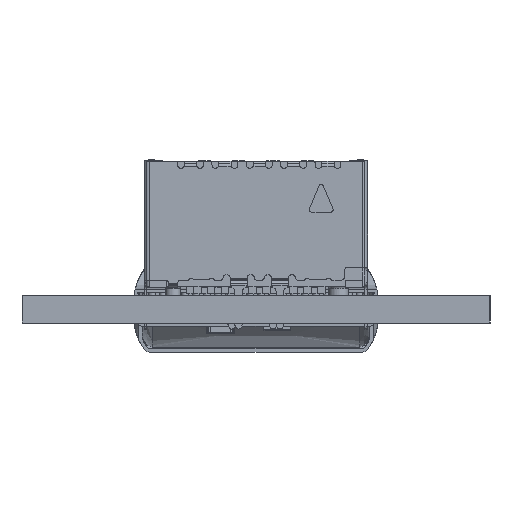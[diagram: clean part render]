
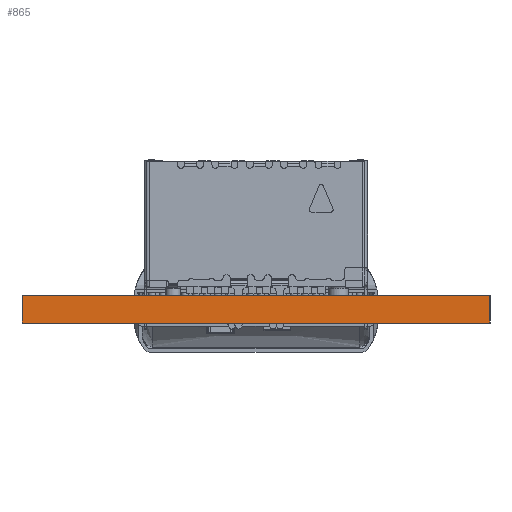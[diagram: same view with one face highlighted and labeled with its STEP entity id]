
A CAD part, front view. The second image highlights one B-rep face of the part: STEP entity #865.
In plain terms, the highlighted planar face has unit normal (-0.001, -1, 0).
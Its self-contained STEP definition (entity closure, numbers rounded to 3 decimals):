
#77 = EDGE_CURVE('',#78,#80,#82,.T.);
#78 = VERTEX_POINT('',#79);
#79 = CARTESIAN_POINT('',(9.456,9.848,0.));
#80 = VERTEX_POINT('',#81);
#81 = CARTESIAN_POINT('',(9.456,9.848,1.6));
#82 = LINE('',#83,#84);
#83 = CARTESIAN_POINT('',(9.456,9.848,0.));
#84 = VECTOR('',#85,1.);
#85 = DIRECTION('',(0.,0.,1.));
#840 = VERTEX_POINT('',#841);
#841 = CARTESIAN_POINT('',(36.67,9.835,1.6));
#847 = EDGE_CURVE('',#848,#840,#850,.T.);
#848 = VERTEX_POINT('',#849);
#849 = CARTESIAN_POINT('',(36.67,9.835,0.));
#850 = LINE('',#851,#852);
#851 = CARTESIAN_POINT('',(36.67,9.835,0.));
#852 = VECTOR('',#853,1.);
#853 = DIRECTION('',(0.,0.,1.));
#865 = ADVANCED_FACE('',(#866),#882,.T.);
#866 = FACE_BOUND('',#867,.T.);
#867 = EDGE_LOOP('',(#868,#869,#875,#876));
#868 = ORIENTED_EDGE('',*,*,#847,.T.);
#869 = ORIENTED_EDGE('',*,*,#870,.T.);
#870 = EDGE_CURVE('',#840,#80,#871,.T.);
#871 = LINE('',#872,#873);
#872 = CARTESIAN_POINT('',(36.67,9.835,1.6));
#873 = VECTOR('',#874,1.);
#874 = DIRECTION('',(-1.,0.,0.));
#875 = ORIENTED_EDGE('',*,*,#77,.F.);
#876 = ORIENTED_EDGE('',*,*,#877,.F.);
#877 = EDGE_CURVE('',#848,#78,#878,.T.);
#878 = LINE('',#879,#880);
#879 = CARTESIAN_POINT('',(36.67,9.835,0.));
#880 = VECTOR('',#881,1.);
#881 = DIRECTION('',(-1.,0.,0.));
#882 = PLANE('',#883);
#883 = AXIS2_PLACEMENT_3D('',#884,#885,#886);
#884 = CARTESIAN_POINT('',(36.67,9.835,0.));
#885 = DIRECTION('',(0.,-1.,0.));
#886 = DIRECTION('',(-1.,0.,0.));
